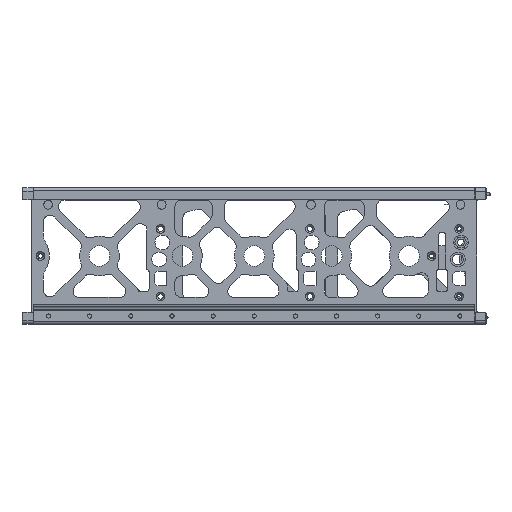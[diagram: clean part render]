
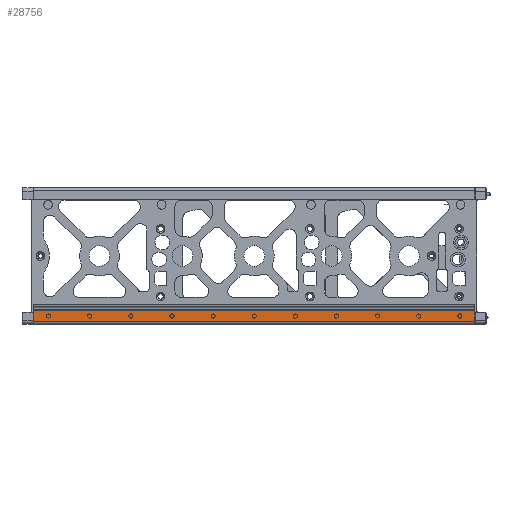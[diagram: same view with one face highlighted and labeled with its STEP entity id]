
A CAD part, left-side view. The second image highlights one B-rep face of the part: STEP entity #28756.
In plain terms, the highlighted planar face has unit normal (-1, 0, 0).
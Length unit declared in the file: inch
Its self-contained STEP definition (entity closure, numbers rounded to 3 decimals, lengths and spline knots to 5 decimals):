
#129 = VECTOR ( 'NONE', #90640, 39.37008 ) ;
#3305 = VERTEX_POINT ( 'NONE', #53941 ) ;
#4626 = EDGE_CURVE ( 'NONE', #54574, #3305, #49807, .T. ) ;
#7443 = EDGE_CURVE ( 'NONE', #74110, #87246, #81028, .T. ) ;
#13305 = DIRECTION ( 'NONE',  ( 0., 0., 1. ) ) ;
#19862 = VECTOR ( 'NONE', #40748, 39.37008 ) ;
#20844 = ORIENTED_EDGE ( 'NONE', *, *, #7443, .T. ) ;
#21669 = FACE_OUTER_BOUND ( 'NONE', #54477, .T. ) ;
#24351 = LINE ( 'NONE', #91788, #19862 ) ;
#24854 = CARTESIAN_POINT ( 'NONE',  ( -1.9695, 6.88528, -1.5748 ) ) ;
#26322 = CARTESIAN_POINT ( 'NONE',  ( -1.9695, -6.36717, -1.8885 ) ) ;
#28756 = ADVANCED_FACE ( 'NONE', ( #21669 ), #74154, .T. ) ;
#38475 = DIRECTION ( 'NONE',  ( -1., 0., 0. ) ) ;
#40748 = DIRECTION ( 'NONE',  ( 0., -1., 0. ) ) ;
#45197 = VECTOR ( 'NONE', #13305, 39.37008 ) ;
#46947 = ORIENTED_EDGE ( 'NONE', *, *, #65230, .F. ) ;
#49807 = LINE ( 'NONE', #82713, #45197 ) ;
#53941 = CARTESIAN_POINT ( 'NONE',  ( -1.9695, -6.36717, -1.5748 ) ) ;
#54477 = EDGE_LOOP ( 'NONE', ( #46947, #20844, #91728, #69042 ) ) ;
#54574 = VERTEX_POINT ( 'NONE', #26322 ) ;
#58371 = LINE ( 'NONE', #24854, #129 ) ;
#61638 = VECTOR ( 'NONE', #94038, 39.37008 ) ;
#65086 = AXIS2_PLACEMENT_3D ( 'NONE', #82151, #38475, #89510 ) ;
#65230 = EDGE_CURVE ( 'NONE', #74110, #3305, #58371, .T. ) ;
#69042 = ORIENTED_EDGE ( 'NONE', *, *, #4626, .T. ) ;
#74110 = VERTEX_POINT ( 'NONE', #92208 ) ;
#74154 = PLANE ( 'NONE',  #65086 ) ;
#81028 = LINE ( 'NONE', #85891, #61638 ) ;
#82151 = CARTESIAN_POINT ( 'NONE',  ( -1.9695, -3.55765, -1.76914 ) ) ;
#82713 = CARTESIAN_POINT ( 'NONE',  ( -1.9695, -6.36717, -1.8885 ) ) ;
#85891 = CARTESIAN_POINT ( 'NONE',  ( -1.9695, 6.36717, -1.8885 ) ) ;
#87246 = VERTEX_POINT ( 'NONE', #87395 ) ;
#87395 = CARTESIAN_POINT ( 'NONE',  ( -1.9695, 6.36717, -1.8885 ) ) ;
#89510 = DIRECTION ( 'NONE',  ( 0., -0.091, 0.996 ) ) ;
#90640 = DIRECTION ( 'NONE',  ( 0., -1., 0. ) ) ;
#91728 = ORIENTED_EDGE ( 'NONE', *, *, #93931, .T. ) ;
#91788 = CARTESIAN_POINT ( 'NONE',  ( -1.9695, 6.88528, -1.8885 ) ) ;
#92208 = CARTESIAN_POINT ( 'NONE',  ( -1.9695, 6.36717, -1.5748 ) ) ;
#93931 = EDGE_CURVE ( 'NONE', #87246, #54574, #24351, .T. ) ;
#94038 = DIRECTION ( 'NONE',  ( 0., 0., -1. ) ) ;
